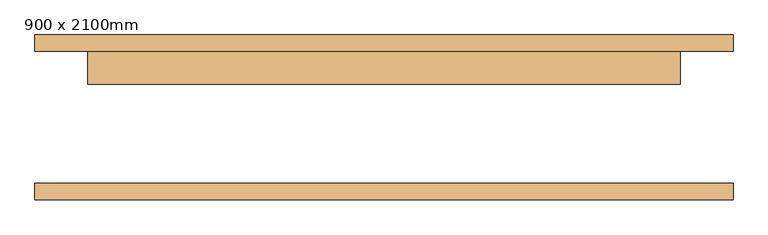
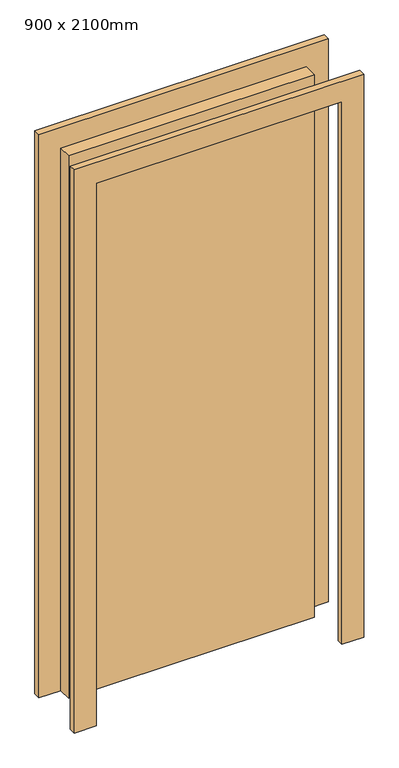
"""IFC4 building model written with IfcOpenShell, lengths in millimetres: door geometry, Дверь-Одинарная-Щитовая_Панель_Двусторонняя : 900 x 2100mm."""

from ifc_helpers import new_model, si_unit, frame, origin, origin_with_axes, place, context, project, spatial, polyline, outline, extrude, source, transform, mapped, element, save


def door_900_x_2100mm_75f611c8(model_context):
    return source(origin(), model_context, "Body", "SweptSolid", [
        extrude(outline(polyline([(450.0, 50.0), (-450.0, 50.0), (-450.0, 100.0), (450.0, 100.0), (450.0, 50.0)])), origin_with_axes(), (0.0, 0.0, 1.0), 2100.0),
        extrude(outline(polyline([(2180.0, -530.0), (0.0, -530.0), (0.0, -450.0), (2100.0, -450.0), (2100.0, 450.0), (0.0, 450.0), (0.0, 530.0), (2180.0, 530.0), (2180.0, -530.0)])), frame((0.0, 100.0, 0.0), z_axis=(0.0, 1.0, 0.0), x_axis=(0.0, 0.0, 1.0)), (0.0, 0.0, 1.0), 25.0),
        extrude(outline(polyline([(2180.0, 530.0), (2180.0, -530.0), (0.0, -530.0), (0.0, -450.0), (2100.0, -450.0), (2100.0, 450.0), (0.0, 450.0), (0.0, 530.0), (2180.0, 530.0)])), frame((0.0, -125.0, 0.0), z_axis=(0.0, 1.0, 0.0), x_axis=(0.0, 0.0, 1.0)), (0.0, 0.0, 1.0), 25.0),
    ])


if __name__ == "__main__":
    model = new_model("IFC4")
    model_context = context("Model", 3, world=origin())
    ifc_project = project(units=[si_unit("LENGTHUNIT", "METRE", prefix="MILLI")], contexts=[model_context])
    site = spatial("IfcSite", under=ifc_project)
    building = spatial("IfcBuilding", under=site)
    placement = place(None, origin())
    door_900_x_2100mm_shape = door_900_x_2100mm_75f611c8(model_context)
    element("IfcDoor", 1, ObjectType="Дверь-Одинарная-Щитовая_Панель_Двусторонняя : 900 x 2100mm", at=placement, inside=building, context=model_context, shape_type="MappedRepresentation", body=[
        mapped(door_900_x_2100mm_shape, transform((0.0, 0.0, 0.0), x_axis=(1.0, 0.0, 0.0), y_axis=(0.0, 1.0, 0.0), z_axis=(0.0, 0.0, 1.0))),
    ])
    save(model, "model.ifc")
